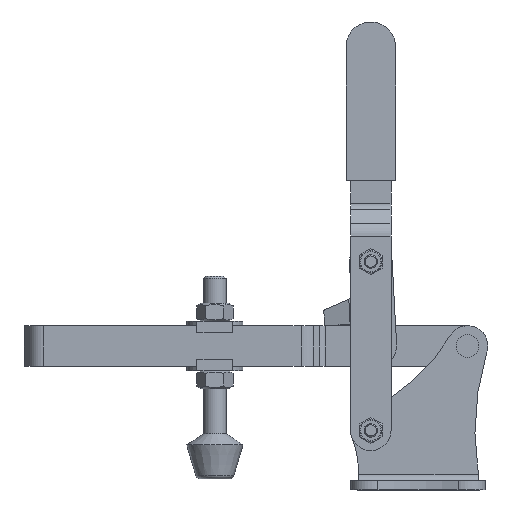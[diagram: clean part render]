
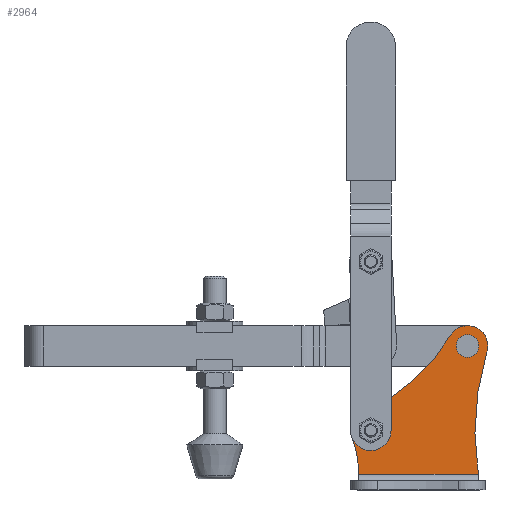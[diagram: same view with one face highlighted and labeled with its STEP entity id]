
A CAD part, front view. The second image highlights one B-rep face of the part: STEP entity #2964.
In plain terms, the highlighted planar face has unit normal (0, -1, 0).
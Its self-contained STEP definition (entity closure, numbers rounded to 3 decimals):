
#2428=CARTESIAN_POINT('Cartesian Point',(65.873,-8.,34.821)) ;
#2431=CARTESIAN_POINT('Axis2P3D Location',(35.392,-8.,108.787)) ;
#2435=CARTESIAN_POINT('Cartesian Point',(78.302,-8.,41.268)) ;
#2468=CARTESIAN_POINT('Cartesian Point',(63.813,-8.,7.)) ;
#2471=CARTESIAN_POINT('Axis2P3D Location',(23.832,-8.,8.24)) ;
#2475=CARTESIAN_POINT('Cartesian Point',(60.987,-8.,23.056)) ;
#2508=CARTESIAN_POINT('Cartesian Point',(120.877,-8.,61.269)) ;
#2511=CARTESIAN_POINT('Axis2P3D Location',(235.599,-8.,26.071)) ;
#2515=CARTESIAN_POINT('Cartesian Point',(117.124,-8.,7.)) ;
#2542=CARTESIAN_POINT('Axis2P3D Location',(35.392,-8.,108.787)) ;
#2546=CARTESIAN_POINT('Cartesian Point',(104.524,-8.,68.529)) ;
#2720=CARTESIAN_POINT('Line Origine',(90.802,-8.,7.)) ;
#2880=CARTESIAN_POINT('Axis2P3D Location',(60.302,-8.,73.)) ;
#2885=CARTESIAN_POINT('Axis2P3D Location',(69.302,-8.,26.5)) ;
#2889=CARTESIAN_POINT('Cartesian Point',(60.302,-8.,26.46)) ;
#2892=CARTESIAN_POINT('Axis2P3D Location',(69.302,-8.,26.5)) ;
#2897=CARTESIAN_POINT('Axis2P3D Location',(112.302,-8.,64.)) ;
#2901=CARTESIAN_POINT('Cartesian Point',(121.302,-8.,63.974)) ;
#2904=CARTESIAN_POINT('Axis2P3D Location',(112.302,-8.,64.)) ;
#2908=CARTESIAN_POINT('Cartesian Point',(112.334,-8.,73.)) ;
#2911=CARTESIAN_POINT('Axis2P3D Location',(112.302,-8.,64.)) ;
#2928=CARTESIAN_POINT('Axis2P3D Location',(69.302,-8.,26.5)) ;
#2932=CARTESIAN_POINT('Cartesian Point',(69.302,-8.,30.5)) ;
#2934=CARTESIAN_POINT('Cartesian Point',(69.302,-8.,22.5)) ;
#2937=CARTESIAN_POINT('Axis2P3D Location',(69.302,-8.,26.5)) ;
#2946=CARTESIAN_POINT('Axis2P3D Location',(112.302,-8.,64.)) ;
#2950=CARTESIAN_POINT('Cartesian Point',(112.302,-8.,68.)) ;
#2952=CARTESIAN_POINT('Cartesian Point',(112.302,-8.,60.)) ;
#2955=CARTESIAN_POINT('Axis2P3D Location',(112.302,-8.,64.)) ;
#2432=DIRECTION('Axis2P3D Direction',(0.,1.,0.)) ;
#2472=DIRECTION('Axis2P3D Direction',(0.,1.,0.)) ;
#2512=DIRECTION('Axis2P3D Direction',(0.,1.,0.)) ;
#2543=DIRECTION('Axis2P3D Direction',(0.,1.,0.)) ;
#2721=DIRECTION('Vector Direction',(-1.,0.,0.)) ;
#2881=DIRECTION('Axis2P3D Direction',(0.,1.,0.)) ;
#2882=DIRECTION('Axis2P3D XDirection',(1.,0.,0.)) ;
#2886=DIRECTION('Axis2P3D Direction',(0.,1.,0.)) ;
#2893=DIRECTION('Axis2P3D Direction',(0.,1.,0.)) ;
#2898=DIRECTION('Axis2P3D Direction',(0.,1.,0.)) ;
#2905=DIRECTION('Axis2P3D Direction',(0.,1.,0.)) ;
#2912=DIRECTION('Axis2P3D Direction',(0.,1.,0.)) ;
#2929=DIRECTION('Axis2P3D Direction',(0.,1.,0.)) ;
#2938=DIRECTION('Axis2P3D Direction',(0.,1.,0.)) ;
#2947=DIRECTION('Axis2P3D Direction',(0.,1.,0.)) ;
#2956=DIRECTION('Axis2P3D Direction',(0.,1.,0.)) ;
#2433=AXIS2_PLACEMENT_3D('Circle Axis2P3D',#2431,#2432,$) ;
#2473=AXIS2_PLACEMENT_3D('Circle Axis2P3D',#2471,#2472,$) ;
#2513=AXIS2_PLACEMENT_3D('Circle Axis2P3D',#2511,#2512,$) ;
#2544=AXIS2_PLACEMENT_3D('Circle Axis2P3D',#2542,#2543,$) ;
#2883=AXIS2_PLACEMENT_3D('Plane Axis2P3D',#2880,#2881,#2882) ;
#2887=AXIS2_PLACEMENT_3D('Circle Axis2P3D',#2885,#2886,$) ;
#2894=AXIS2_PLACEMENT_3D('Circle Axis2P3D',#2892,#2893,$) ;
#2899=AXIS2_PLACEMENT_3D('Circle Axis2P3D',#2897,#2898,$) ;
#2906=AXIS2_PLACEMENT_3D('Circle Axis2P3D',#2904,#2905,$) ;
#2913=AXIS2_PLACEMENT_3D('Circle Axis2P3D',#2911,#2912,$) ;
#2930=AXIS2_PLACEMENT_3D('Circle Axis2P3D',#2928,#2929,$) ;
#2939=AXIS2_PLACEMENT_3D('Circle Axis2P3D',#2937,#2938,$) ;
#2948=AXIS2_PLACEMENT_3D('Circle Axis2P3D',#2946,#2947,$) ;
#2957=AXIS2_PLACEMENT_3D('Circle Axis2P3D',#2955,#2956,$) ;
#2917=ORIENTED_EDGE('Oriented Edge',*,*,#2891,.F.) ;
#2918=ORIENTED_EDGE('Oriented Edge',*,*,#2896,.F.) ;
#2919=ORIENTED_EDGE('Oriented Edge',*,*,#2477,.T.) ;
#2920=ORIENTED_EDGE('Oriented Edge',*,*,#2724,.T.) ;
#2921=ORIENTED_EDGE('Oriented Edge',*,*,#2517,.T.) ;
#2922=ORIENTED_EDGE('Oriented Edge',*,*,#2903,.F.) ;
#2923=ORIENTED_EDGE('Oriented Edge',*,*,#2910,.F.) ;
#2924=ORIENTED_EDGE('Oriented Edge',*,*,#2915,.F.) ;
#2925=ORIENTED_EDGE('Oriented Edge',*,*,#2548,.T.) ;
#2926=ORIENTED_EDGE('Oriented Edge',*,*,#2437,.T.) ;
#2943=ORIENTED_EDGE('Oriented Edge',*,*,#2936,.F.) ;
#2944=ORIENTED_EDGE('Oriented Edge',*,*,#2941,.F.) ;
#2961=ORIENTED_EDGE('Oriented Edge',*,*,#2954,.F.) ;
#2962=ORIENTED_EDGE('Oriented Edge',*,*,#2959,.F.) ;
#2945=FACE_BOUND('Face Bound',#2942,.T.) ;
#2963=FACE_BOUND('Face Bound',#2960,.T.) ;
#2722=VECTOR('Line Direction',#2721,1.) ;
#2964=ADVANCED_FACE('',(#2927,#2945,#2963),#2884,.F.) ;
#2434=CIRCLE('generated circle',#2433,80.) ;
#2474=CIRCLE('generated circle',#2473,40.) ;
#2514=CIRCLE('generated circle',#2513,120.) ;
#2545=CIRCLE('generated circle',#2544,80.) ;
#2888=CIRCLE('generated circle',#2887,9.) ;
#2895=CIRCLE('generated circle',#2894,9.) ;
#2900=CIRCLE('generated circle',#2899,9.) ;
#2907=CIRCLE('generated circle',#2906,9.) ;
#2914=CIRCLE('generated circle',#2913,9.) ;
#2931=CIRCLE('generated circle',#2930,4.) ;
#2940=CIRCLE('generated circle',#2939,4.) ;
#2949=CIRCLE('generated circle',#2948,4.) ;
#2958=CIRCLE('generated circle',#2957,4.) ;
#2437=EDGE_CURVE('',#2436,#2429,#2434,.T.) ;
#2477=EDGE_CURVE('',#2476,#2469,#2474,.T.) ;
#2517=EDGE_CURVE('',#2516,#2509,#2514,.T.) ;
#2548=EDGE_CURVE('',#2547,#2436,#2545,.T.) ;
#2724=EDGE_CURVE('',#2469,#2516,#2723,.F.) ;
#2891=EDGE_CURVE('',#2890,#2429,#2888,.T.) ;
#2896=EDGE_CURVE('',#2476,#2890,#2895,.T.) ;
#2903=EDGE_CURVE('',#2902,#2509,#2900,.T.) ;
#2910=EDGE_CURVE('',#2909,#2902,#2907,.T.) ;
#2915=EDGE_CURVE('',#2547,#2909,#2914,.T.) ;
#2936=EDGE_CURVE('',#2933,#2935,#2931,.F.) ;
#2941=EDGE_CURVE('',#2935,#2933,#2940,.F.) ;
#2954=EDGE_CURVE('',#2951,#2953,#2949,.F.) ;
#2959=EDGE_CURVE('',#2953,#2951,#2958,.F.) ;
#2916=EDGE_LOOP('Oriented Loop',(#2917,#2918,#2919,#2920,#2921,#2922,#2923,#2924,#2925,#2926)) ;
#2942=EDGE_LOOP('Oriented Loop',(#2943,#2944)) ;
#2960=EDGE_LOOP('Oriented Loop',(#2961,#2962)) ;
#2927=FACE_OUTER_BOUND('Face Bound',#2916,.T.) ;
#2723=LINE('Line',#2720,#2722) ;
#2884=PLANE('Plane',#2883) ;
#2429=VERTEX_POINT('Vertex Point',#2428) ;
#2436=VERTEX_POINT('Vertex Point',#2435) ;
#2469=VERTEX_POINT('Vertex Point',#2468) ;
#2476=VERTEX_POINT('Vertex Point',#2475) ;
#2509=VERTEX_POINT('Vertex Point',#2508) ;
#2516=VERTEX_POINT('Vertex Point',#2515) ;
#2547=VERTEX_POINT('Vertex Point',#2546) ;
#2890=VERTEX_POINT('Vertex Point',#2889) ;
#2902=VERTEX_POINT('Vertex Point',#2901) ;
#2909=VERTEX_POINT('Vertex Point',#2908) ;
#2933=VERTEX_POINT('Vertex Point',#2932) ;
#2935=VERTEX_POINT('Vertex Point',#2934) ;
#2951=VERTEX_POINT('Vertex Point',#2950) ;
#2953=VERTEX_POINT('Vertex Point',#2952) ;
